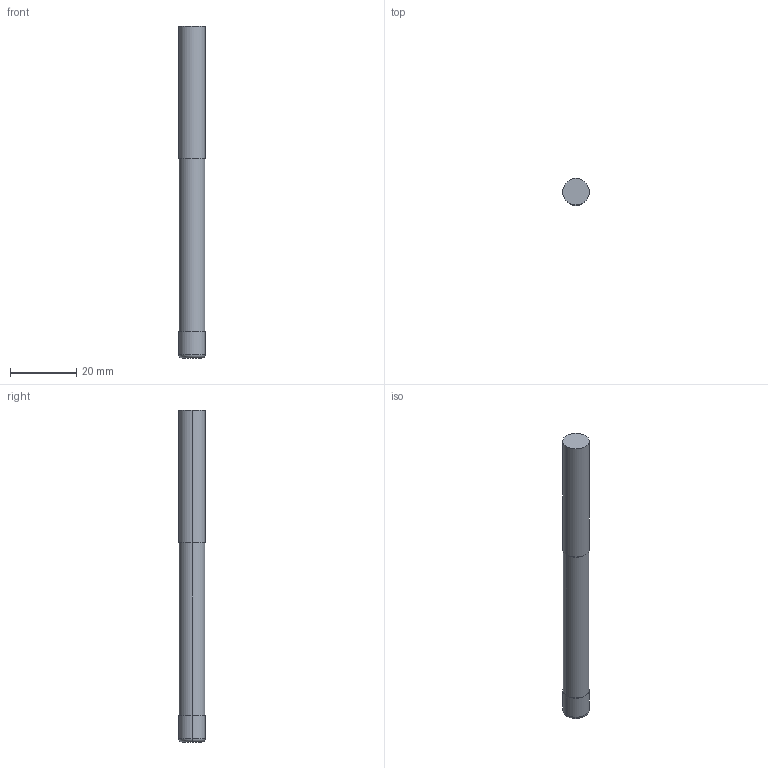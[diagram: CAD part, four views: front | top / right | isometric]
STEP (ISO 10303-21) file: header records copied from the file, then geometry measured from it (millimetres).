
FILE_DESCRIPTION(('STEP AP214'),'1');
FILE_NAME('cctmp_91E1E804-715B-42AC-B8CC-3F4F43BD07A1_2020_10_01_07_15_34_0306..stp','2020-10-01T05:15:34',('Meusburger Georg GmbH & Co KG'),('CADClick - www.CADClick.com'),'Spatial InterOp 3D',' ','unknown authorization');
FILE_SCHEMA(('AUTOMOTIVE_DESIGN { 1 0 10303 214 1 1 1 1 }'));
Length unit declared in the file: millimetre
Products named in the file (1): WZF17426_8_1
Bounding box: 8 x 8 x 100 mm (x, y, z)
Volume: 4829.1 mm3; surface area: 2561 mm2
Topology: 1 solids, 1 shells, 12 faces, 22 edges, 14 vertices
Faces by surface type: cylinder 6, plane 4, torus 2
Entity records: 426 total; most frequent: DIRECTION 64, CARTESIAN_POINT 49, ORIENTED_EDGE 44, AXIS2_PLACEMENT_3D 29, EDGE_CURVE 22, CIRCLE 16, EDGE_LOOP 14, VERTEX_POINT 14
